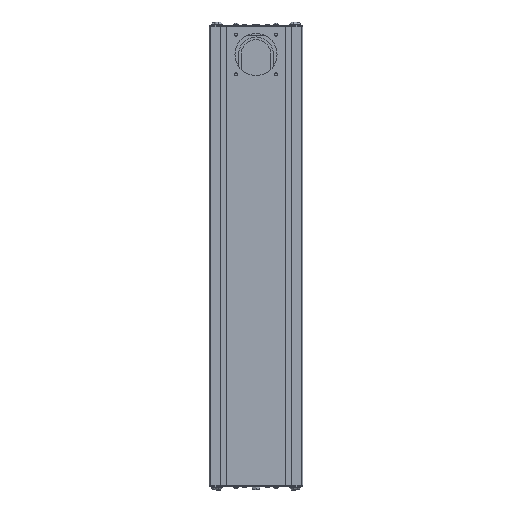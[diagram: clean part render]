
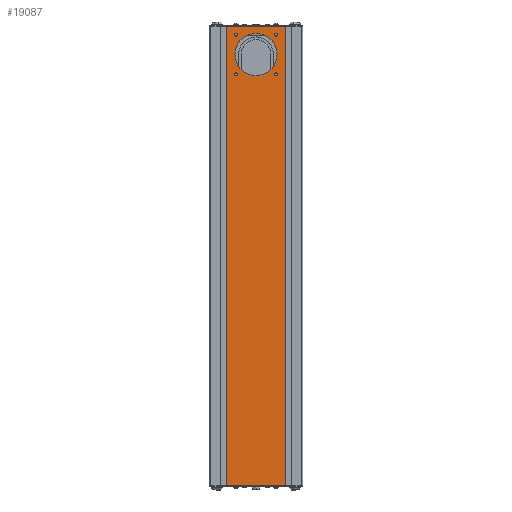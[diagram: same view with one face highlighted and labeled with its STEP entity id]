
A CAD part, front view. The second image highlights one B-rep face of the part: STEP entity #19087.
In plain terms, the highlighted planar face has unit normal (0, -1, 0).
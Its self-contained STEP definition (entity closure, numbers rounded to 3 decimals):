
#447 = EDGE_CURVE ( 'NONE', #4705, #12639, #26240, .T. ) ;
#584 = DIRECTION ( 'NONE',  ( 0., -1., 0. ) ) ;
#789 = VERTEX_POINT ( 'NONE', #2169 ) ;
#1236 = VECTOR ( 'NONE', #9709, 1000. ) ;
#1796 = ORIENTED_EDGE ( 'NONE', *, *, #447, .F. ) ;
#1879 = ORIENTED_EDGE ( 'NONE', *, *, #26266, .F. ) ;
#2035 = AXIS2_PLACEMENT_3D ( 'NONE', #11990, #26335, #16039 ) ;
#2131 = AXIS2_PLACEMENT_3D ( 'NONE', #21605, #3022, #4668 ) ;
#2169 = CARTESIAN_POINT ( 'NONE',  ( -64., 0., -490.5 ) ) ;
#2186 = EDGE_CURVE ( 'NONE', #3902, #20737, #23959, .T. ) ;
#2214 = CARTESIAN_POINT ( 'NONE',  ( 42.426, 0., 384.674 ) ) ;
#2418 = AXIS2_PLACEMENT_3D ( 'NONE', #12260, #5893, #9692 ) ;
#2490 = FACE_BOUND ( 'NONE', #15228, .T. ) ;
#2513 = VERTEX_POINT ( 'NONE', #15012 ) ;
#3022 = DIRECTION ( 'NONE',  ( 0., -1., 0. ) ) ;
#3070 = CARTESIAN_POINT ( 'NONE',  ( 0., 0., 385.5 ) ) ;
#3103 = ORIENTED_EDGE ( 'NONE', *, *, #24653, .F. ) ;
#3610 = EDGE_CURVE ( 'NONE', #5669, #25336, #26103, .T. ) ;
#3902 = VERTEX_POINT ( 'NONE', #17552 ) ;
#4251 = DIRECTION ( 'NONE',  ( 0., 0., -1. ) ) ;
#4552 = ORIENTED_EDGE ( 'NONE', *, *, #7803, .T. ) ;
#4582 = CIRCLE ( 'NONE', #10639, 3.4 ) ;
#4668 = DIRECTION ( 'NONE',  ( 0., 0., -1. ) ) ;
#4705 = VERTEX_POINT ( 'NONE', #19076 ) ;
#4921 = VERTEX_POINT ( 'NONE', #3070 ) ;
#5404 = VERTEX_POINT ( 'NONE', #15765 ) ;
#5660 = CARTESIAN_POINT ( 'NONE',  ( 64., 0., 490.5 ) ) ;
#5669 = VERTEX_POINT ( 'NONE', #10147 ) ;
#5686 = CARTESIAN_POINT ( 'NONE',  ( 42.426, 0., 388.074 ) ) ;
#5893 = DIRECTION ( 'NONE',  ( 0., -1., 0. ) ) ;
#6283 = CARTESIAN_POINT ( 'NONE',  ( -64., 0., -490.5 ) ) ;
#6876 = DIRECTION ( 'NONE',  ( 0., -1., 0. ) ) ;
#7038 = CARTESIAN_POINT ( 'NONE',  ( -64., 0., 490.5 ) ) ;
#7182 = CIRCLE ( 'NONE', #25339, 3.4 ) ;
#7803 = EDGE_CURVE ( 'NONE', #789, #25336, #8439, .T. ) ;
#7829 = CIRCLE ( 'NONE', #8714, 3.4 ) ;
#8179 = FACE_BOUND ( 'NONE', #8899, .T. ) ;
#8312 = DIRECTION ( 'NONE',  ( 0., 0., 1. ) ) ;
#8439 = LINE ( 'NONE', #6283, #17170 ) ;
#8479 = AXIS2_PLACEMENT_3D ( 'NONE', #22176, #12378, #4251 ) ;
#8590 = PLANE ( 'NONE',  #13262 ) ;
#8714 = AXIS2_PLACEMENT_3D ( 'NONE', #25556, #6876, #25821 ) ;
#8761 = ORIENTED_EDGE ( 'NONE', *, *, #20480, .F. ) ;
#8814 = DIRECTION ( 'NONE',  ( 0., 0., -1. ) ) ;
#8899 = EDGE_LOOP ( 'NONE', ( #15466, #20000 ) ) ;
#8912 = CARTESIAN_POINT ( 'NONE',  ( -42.426, 0., 472.926 ) ) ;
#8975 = CIRCLE ( 'NONE', #9403, 3.4 ) ;
#9403 = AXIS2_PLACEMENT_3D ( 'NONE', #12778, #584, #25235 ) ;
#9692 = DIRECTION ( 'NONE',  ( 0., 0., -1. ) ) ;
#9709 = DIRECTION ( 'NONE',  ( 1., 0., 0. ) ) ;
#10147 = CARTESIAN_POINT ( 'NONE',  ( 64., 0., 490.5 ) ) ;
#10505 = CARTESIAN_POINT ( 'NONE',  ( 64., 0., -490.5 ) ) ;
#10544 = DIRECTION ( 'NONE',  ( 0., -1., 0. ) ) ;
#10638 = DIRECTION ( 'NONE',  ( 0., -1., 0. ) ) ;
#10639 = AXIS2_PLACEMENT_3D ( 'NONE', #5686, #14236, #18000 ) ;
#10917 = DIRECTION ( 'NONE',  ( 1., 0., 0. ) ) ;
#11293 = CARTESIAN_POINT ( 'NONE',  ( -64., 0., 490.5 ) ) ;
#11896 = FACE_BOUND ( 'NONE', #22691, .T. ) ;
#11990 = CARTESIAN_POINT ( 'NONE',  ( 42.426, 0., 388.074 ) ) ;
#12260 = CARTESIAN_POINT ( 'NONE',  ( 0., 0., 430.5 ) ) ;
#12378 = DIRECTION ( 'NONE',  ( 0., -1., 0. ) ) ;
#12401 = ORIENTED_EDGE ( 'NONE', *, *, #16191, .F. ) ;
#12415 = VERTEX_POINT ( 'NONE', #19196 ) ;
#12418 = EDGE_CURVE ( 'NONE', #20737, #3902, #7829, .T. ) ;
#12639 = VERTEX_POINT ( 'NONE', #15790 ) ;
#12739 = VECTOR ( 'NONE', #13943, 1000. ) ;
#12778 = CARTESIAN_POINT ( 'NONE',  ( -42.426, 0., 388.074 ) ) ;
#13090 = ORIENTED_EDGE ( 'NONE', *, *, #21386, .F. ) ;
#13262 = AXIS2_PLACEMENT_3D ( 'NONE', #18622, #25113, #8312 ) ;
#13597 = EDGE_CURVE ( 'NONE', #4921, #12415, #15865, .T. ) ;
#13943 = DIRECTION ( 'NONE',  ( 0., 0., -1. ) ) ;
#14236 = DIRECTION ( 'NONE',  ( 0., -1., 0. ) ) ;
#14974 = VECTOR ( 'NONE', #8814, 1000. ) ;
#15012 = CARTESIAN_POINT ( 'NONE',  ( -42.426, 0., 476.326 ) ) ;
#15193 = EDGE_CURVE ( 'NONE', #5404, #19140, #4582, .T. ) ;
#15228 = EDGE_LOOP ( 'NONE', ( #12401, #8761 ) ) ;
#15441 = CARTESIAN_POINT ( 'NONE',  ( -64., 0., 490.5 ) ) ;
#15466 = ORIENTED_EDGE ( 'NONE', *, *, #2186, .F. ) ;
#15765 = CARTESIAN_POINT ( 'NONE',  ( 42.426, 0., 391.474 ) ) ;
#15790 = CARTESIAN_POINT ( 'NONE',  ( -42.426, 0., 391.474 ) ) ;
#15865 = CIRCLE ( 'NONE', #2418, 45. ) ;
#15885 = EDGE_LOOP ( 'NONE', ( #4552, #21500, #1879, #21290 ) ) ;
#16039 = DIRECTION ( 'NONE',  ( 0., 0., -1. ) ) ;
#16191 = EDGE_CURVE ( 'NONE', #17114, #2513, #24522, .T. ) ;
#16508 = DIRECTION ( 'NONE',  ( 0., -1., 0. ) ) ;
#16780 = DIRECTION ( 'NONE',  ( 0., 0., -1. ) ) ;
#17114 = VERTEX_POINT ( 'NONE', #21440 ) ;
#17170 = VECTOR ( 'NONE', #10917, 1000. ) ;
#17552 = CARTESIAN_POINT ( 'NONE',  ( 42.426, 0., 469.526 ) ) ;
#18000 = DIRECTION ( 'NONE',  ( 0., 0., -1. ) ) ;
#18622 = CARTESIAN_POINT ( 'NONE',  ( -64., 0., 490.5 ) ) ;
#18705 = EDGE_CURVE ( 'NONE', #18982, #789, #25356, .T. ) ;
#18751 = FACE_BOUND ( 'NONE', #21725, .T. ) ;
#18982 = VERTEX_POINT ( 'NONE', #7038 ) ;
#19038 = DIRECTION ( 'NONE',  ( 0., 0., -1. ) ) ;
#19076 = CARTESIAN_POINT ( 'NONE',  ( -42.426, 0., 384.674 ) ) ;
#19087 = ADVANCED_FACE ( 'NONE', ( #2490, #18751, #11896, #22831, #22190, #8179 ), #8590, .F. ) ;
#19140 = VERTEX_POINT ( 'NONE', #2214 ) ;
#19196 = CARTESIAN_POINT ( 'NONE',  ( 0., 0., 475.5 ) ) ;
#19790 = AXIS2_PLACEMENT_3D ( 'NONE', #8912, #10544, #22748 ) ;
#20000 = ORIENTED_EDGE ( 'NONE', *, *, #12418, .F. ) ;
#20480 = EDGE_CURVE ( 'NONE', #2513, #17114, #7182, .T. ) ;
#20600 = CARTESIAN_POINT ( 'NONE',  ( 42.426, 0., 476.326 ) ) ;
#20737 = VERTEX_POINT ( 'NONE', #20600 ) ;
#20948 = EDGE_LOOP ( 'NONE', ( #24575, #23253 ) ) ;
#21216 = CARTESIAN_POINT ( 'NONE',  ( -42.426, 0., 472.926 ) ) ;
#21290 = ORIENTED_EDGE ( 'NONE', *, *, #18705, .T. ) ;
#21386 = EDGE_CURVE ( 'NONE', #12415, #4921, #25513, .T. ) ;
#21440 = CARTESIAN_POINT ( 'NONE',  ( -42.426, 0., 469.526 ) ) ;
#21500 = ORIENTED_EDGE ( 'NONE', *, *, #3610, .F. ) ;
#21605 = CARTESIAN_POINT ( 'NONE',  ( 0., 0., 430.5 ) ) ;
#21725 = EDGE_LOOP ( 'NONE', ( #1796, #3103 ) ) ;
#21824 = AXIS2_PLACEMENT_3D ( 'NONE', #26811, #16508, #16780 ) ;
#22176 = CARTESIAN_POINT ( 'NONE',  ( -42.426, 0., 388.074 ) ) ;
#22190 = FACE_BOUND ( 'NONE', #20948, .T. ) ;
#22691 = EDGE_LOOP ( 'NONE', ( #23961, #13090 ) ) ;
#22748 = DIRECTION ( 'NONE',  ( 0., 0., -1. ) ) ;
#22831 = FACE_OUTER_BOUND ( 'NONE', #15885, .T. ) ;
#23253 = ORIENTED_EDGE ( 'NONE', *, *, #15193, .F. ) ;
#23694 = CIRCLE ( 'NONE', #2035, 3.4 ) ;
#23959 = CIRCLE ( 'NONE', #21824, 3.4 ) ;
#23961 = ORIENTED_EDGE ( 'NONE', *, *, #13597, .F. ) ;
#24405 = EDGE_CURVE ( 'NONE', #19140, #5404, #23694, .T. ) ;
#24522 = CIRCLE ( 'NONE', #19790, 3.4 ) ;
#24575 = ORIENTED_EDGE ( 'NONE', *, *, #24405, .F. ) ;
#24653 = EDGE_CURVE ( 'NONE', #12639, #4705, #8975, .T. ) ;
#25113 = DIRECTION ( 'NONE',  ( 0., 1., 0. ) ) ;
#25235 = DIRECTION ( 'NONE',  ( 0., 0., -1. ) ) ;
#25336 = VERTEX_POINT ( 'NONE', #10505 ) ;
#25339 = AXIS2_PLACEMENT_3D ( 'NONE', #21216, #10638, #19038 ) ;
#25356 = LINE ( 'NONE', #11293, #14974 ) ;
#25513 = CIRCLE ( 'NONE', #2131, 45. ) ;
#25556 = CARTESIAN_POINT ( 'NONE',  ( 42.426, 0., 472.926 ) ) ;
#25821 = DIRECTION ( 'NONE',  ( 0., 0., -1. ) ) ;
#25976 = LINE ( 'NONE', #15441, #1236 ) ;
#26103 = LINE ( 'NONE', #5660, #12739 ) ;
#26240 = CIRCLE ( 'NONE', #8479, 3.4 ) ;
#26266 = EDGE_CURVE ( 'NONE', #18982, #5669, #25976, .T. ) ;
#26335 = DIRECTION ( 'NONE',  ( 0., -1., 0. ) ) ;
#26811 = CARTESIAN_POINT ( 'NONE',  ( 42.426, 0., 472.926 ) ) ;
